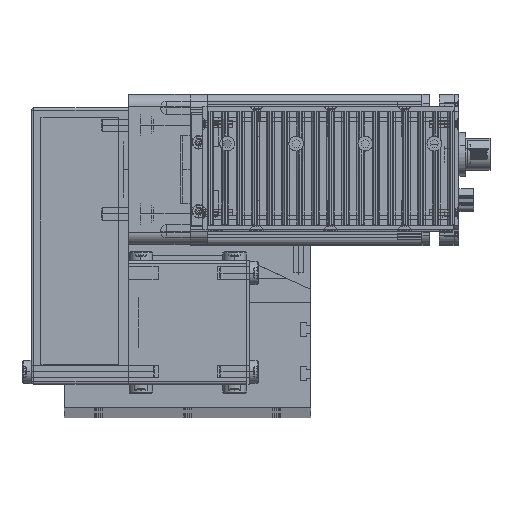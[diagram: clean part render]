
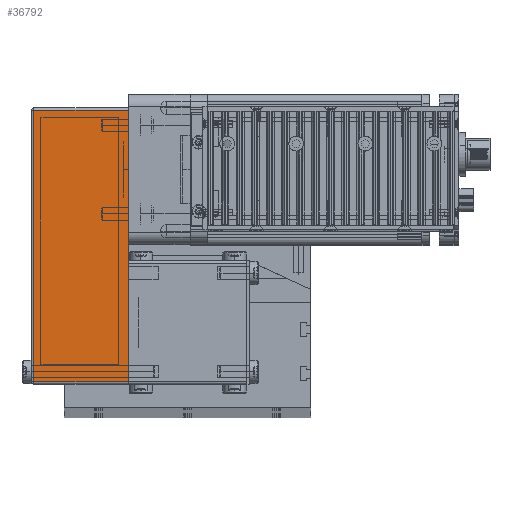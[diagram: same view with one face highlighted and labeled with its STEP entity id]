
A CAD part, top view. The second image highlights one B-rep face of the part: STEP entity #36792.
In plain terms, the highlighted planar face has unit normal (0, 0, 1) as drawn and (0, -1, 0) by its records, which use the part's own axes.
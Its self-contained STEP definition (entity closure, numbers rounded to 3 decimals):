
#12585 = CARTESIAN_POINT ( 'NONE',  ( -49., -25., 0. ) ) ;
#12594 = LINE ( 'NONE', #12640, #12639 ) ;
#12608 = CARTESIAN_POINT ( 'NONE',  ( 61., -25., 0. ) ) ;
#12609 = CARTESIAN_POINT ( 'NONE',  ( 61., -25., 38.5 ) ) ;
#12622 = CARTESIAN_POINT ( 'NONE',  ( -49., -25., 38.5 ) ) ;
#12638 = DIRECTION ( 'NONE',  ( 0., 0., 1. ) ) ;
#12639 = VECTOR ( 'NONE', #12638, 1000. ) ;
#12640 = CARTESIAN_POINT ( 'NONE',  ( -49., -25., 39.5 ) ) ;
#12677 = DIRECTION ( 'NONE',  ( 0., 0., -1. ) ) ;
#12678 = VECTOR ( 'NONE', #12677, 1000. ) ;
#12679 = CARTESIAN_POINT ( 'NONE',  ( 61., -25., 39.5 ) ) ;
#12680 = LINE ( 'NONE', #12679, #12678 ) ;
#12892 = DIRECTION ( 'NONE',  ( 1., 0., 0. ) ) ;
#12893 = VECTOR ( 'NONE', #12892, 1000. ) ;
#12894 = CARTESIAN_POINT ( 'NONE',  ( -50., -25., 38.5 ) ) ;
#12895 = LINE ( 'NONE', #12894, #12893 ) ;
#12897 = DIRECTION ( 'NONE',  ( 1., 0., 0. ) ) ;
#12898 = VECTOR ( 'NONE', #12897, 1000. ) ;
#12901 = DIRECTION ( 'NONE',  ( 0., 0., 1. ) ) ;
#12902 = DIRECTION ( 'NONE',  ( 0., 1., 0. ) ) ;
#12903 = AXIS2_PLACEMENT_3D ( 'NONE', #12916, #12902, #12901 ) ;
#12907 = CARTESIAN_POINT ( 'NONE',  ( -50., -25., 0. ) ) ;
#12908 = LINE ( 'NONE', #12907, #12898 ) ;
#12911 = FACE_OUTER_BOUND ( 'NONE', #36788, .T. ) ;
#12916 = CARTESIAN_POINT ( 'NONE',  ( -50., -25., 39.5 ) ) ;
#12917 = PLANE ( 'NONE',  #12903 ) ;
#36644 = VERTEX_POINT ( 'NONE', #12609 ) ;
#36649 = VERTEX_POINT ( 'NONE', #12608 ) ;
#36654 = VERTEX_POINT ( 'NONE', #12585 ) ;
#36656 = EDGE_CURVE ( 'NONE', #36654, #36668, #12594, .T. ) ;
#36668 = VERTEX_POINT ( 'NONE', #12622 ) ;
#36707 = EDGE_CURVE ( 'NONE', #36644, #36649, #12680, .T. ) ;
#36766 = ORIENTED_EDGE ( 'NONE', *, *, #36794, .F. ) ;
#36767 = ORIENTED_EDGE ( 'NONE', *, *, #36707, .F. ) ;
#36782 = ORIENTED_EDGE ( 'NONE', *, *, #36656, .F. ) ;
#36787 = ORIENTED_EDGE ( 'NONE', *, *, #36793, .T. ) ;
#36788 = EDGE_LOOP ( 'NONE', ( #36782, #36787, #36767, #36766 ) ) ;
#36792 = ADVANCED_FACE ( 'NONE', ( #12911 ), #12917, .F. ) ;
#36793 = EDGE_CURVE ( 'NONE', #36654, #36649, #12908, .T. ) ;
#36794 = EDGE_CURVE ( 'NONE', #36668, #36644, #12895, .T. ) ;
